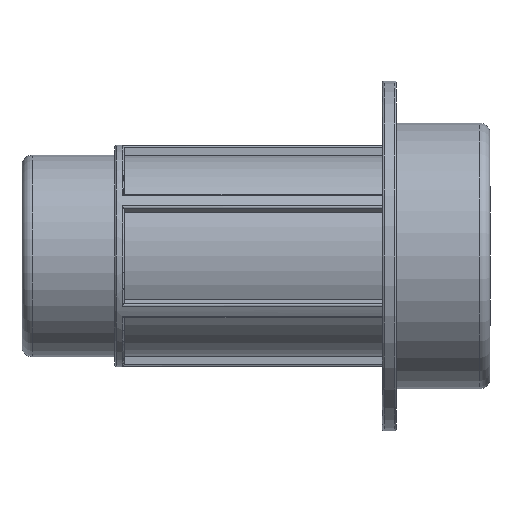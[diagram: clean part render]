
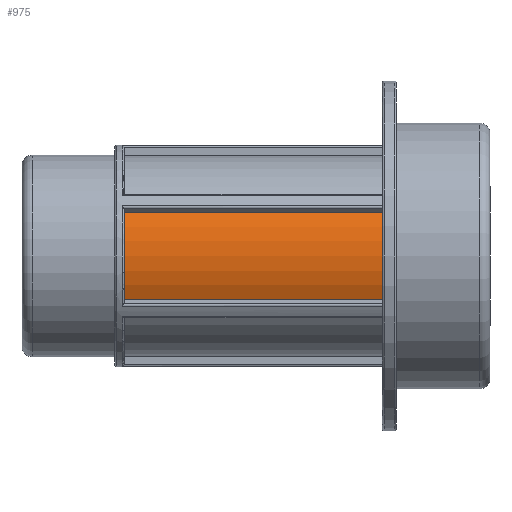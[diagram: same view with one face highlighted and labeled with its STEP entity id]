
A CAD part, front view. The second image highlights one B-rep face of the part: STEP entity #975.
In plain terms, the highlighted cylindrical face has radius 23.901 mm (diameter 47.803 mm), a partial arc.
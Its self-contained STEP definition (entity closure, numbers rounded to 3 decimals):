
#69=LINE('',#1607,#129);
#96=LINE('',#1844,#156);
#129=VECTOR('',#1234,61.27);
#156=VECTOR('',#1335,61.27);
#198=CYLINDRICAL_SURFACE('',#1081,23.902);
#261=FACE_OUTER_BOUND('',#326,.T.);
#326=EDGE_LOOP('',(#872,#873,#874,#875));
#363=CIRCLE('',#1010,23.902);
#396=CIRCLE('',#1082,23.902);
#425=VERTEX_POINT('',#1437);
#426=VERTEX_POINT('',#1439);
#466=VERTEX_POINT('',#1606);
#495=VERTEX_POINT('',#1842);
#523=EDGE_CURVE('',#425,#426,#363,.T.);
#577=EDGE_CURVE('',#466,#426,#69,.T.);
#630=EDGE_CURVE('',#425,#495,#96,.T.);
#633=EDGE_CURVE('',#495,#466,#396,.T.);
#872=ORIENTED_EDGE('',*,*,#577,.T.);
#873=ORIENTED_EDGE('',*,*,#523,.F.);
#874=ORIENTED_EDGE('',*,*,#630,.T.);
#875=ORIENTED_EDGE('',*,*,#633,.T.);
#975=ADVANCED_FACE('',(#261),#198,.T.);
#1010=AXIS2_PLACEMENT_3D('',#1440,#1148,#1149);
#1081=AXIS2_PLACEMENT_3D('',#1850,#1343,#1344);
#1082=AXIS2_PLACEMENT_3D('',#1851,#1345,#1346);
#1148=DIRECTION('center_axis',(1.,0.,0.));
#1149=DIRECTION('ref_axis',(0.,0.,-1.));
#1234=DIRECTION('',(1.,0.,0.));
#1335=DIRECTION('',(-1.,0.,0.));
#1343=DIRECTION('center_axis',(1.,0.,0.));
#1344=DIRECTION('ref_axis',(0.,1.,0.));
#1345=DIRECTION('center_axis',(1.,0.,0.));
#1346=DIRECTION('ref_axis',(0.,0.,-1.));
#1437=CARTESIAN_POINT('',(-25.53,-21.589,10.257));
#1439=CARTESIAN_POINT('',(-25.53,-21.589,-10.257));
#1440=CARTESIAN_POINT('Origin',(-25.53,0.,0.));
#1606=CARTESIAN_POINT('',(-86.8,-21.589,-10.257));
#1607=CARTESIAN_POINT('',(-56.165,-21.589,-10.257));
#1842=CARTESIAN_POINT('',(-86.8,-21.589,10.257));
#1844=CARTESIAN_POINT('',(-56.165,-21.589,10.257));
#1850=CARTESIAN_POINT('Origin',(-56.165,0.,0.));
#1851=CARTESIAN_POINT('Origin',(-86.8,0.,0.));
